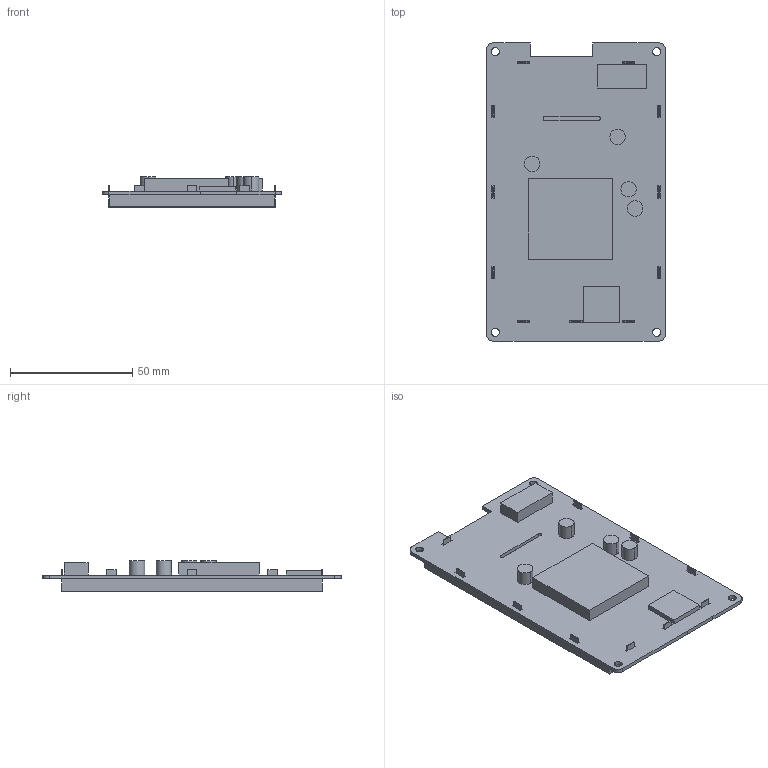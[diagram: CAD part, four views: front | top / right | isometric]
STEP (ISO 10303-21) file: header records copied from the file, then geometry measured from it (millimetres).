
FILE_DESCRIPTION((''),'2;1');
FILE_NAME('3D-DMG80480T043-01WN','2022-09-27T',('Administrator'),(''),'PRO/ENGINEER BY PARAMETRIC TECHNOLOGY CORPORATION, 2011310','PRO/ENGINEER BY PARAMETRIC TECHNOLOGY CORPORATION, 2011310','');
FILE_SCHEMA(('CONFIG_CONTROL_DESIGN','SHAPE_APPEARANCE_LAYERS_GROUPS'));
Length unit declared in the file: millimetre
Products named in the file (1): 3D-DMG80480T043-01WN
Bounding box: 73.15 x 121.92 x 12.4 mm (x, y, z)
Volume: 43929.9 mm3; surface area: 39581.5 mm2
Topology: 1 solids, 1 shells, 211 faces, 628 edges, 404 vertices
Faces by surface type: plane 189, cylinder 22
Entity records: 7896 total; most frequent: ORIENTED_EDGE 1256, CARTESIAN_POINT 1244, DIRECTION 1096, EDGE_CURVE 628, VECTOR 584, LINE 584, VERTEX_POINT 404, AXIS2_PLACEMENT_3D 256
